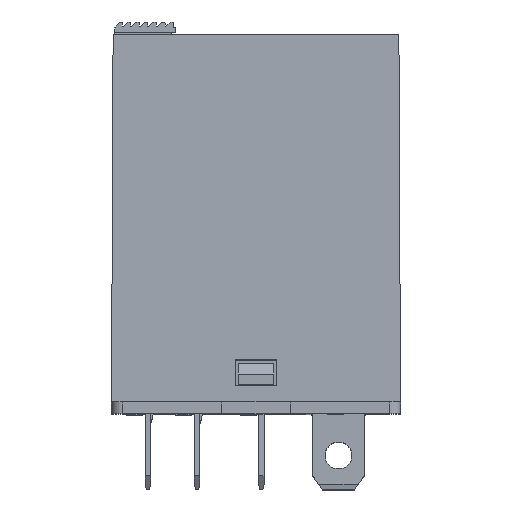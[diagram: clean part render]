
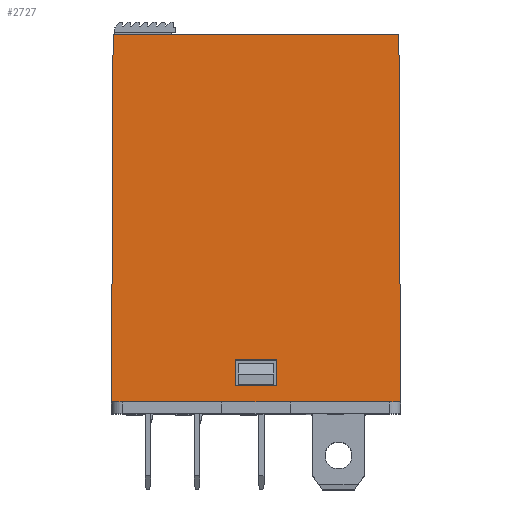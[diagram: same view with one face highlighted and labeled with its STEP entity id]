
A CAD part, top view. The second image highlights one B-rep face of the part: STEP entity #2727.
In plain terms, the highlighted planar face has unit normal (0, 0.004, 1).
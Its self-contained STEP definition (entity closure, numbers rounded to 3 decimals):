
#365 = VECTOR ( 'NONE', #7423, 1000. ) ;
#377 = DIRECTION ( 'NONE',  ( 0., 0.004, 1. ) ) ;
#468 = LINE ( 'NONE', #15472, #10069 ) ;
#699 = LINE ( 'NONE', #3181, #5204 ) ;
#828 = CARTESIAN_POINT ( 'NONE',  ( -3.147, -0.649, 37.5 ) ) ;
#838 = VERTEX_POINT ( 'NONE', #11378 ) ;
#967 = ORIENTED_EDGE ( 'NONE', *, *, #13695, .T. ) ;
#1011 = LINE ( 'NONE', #828, #20794 ) ;
#1346 = CARTESIAN_POINT ( 'NONE',  ( 0.753, -0.649, 37.5 ) ) ;
#1524 = LINE ( 'NONE', #15057, #11122 ) ;
#1651 = CARTESIAN_POINT ( 'NONE',  ( 12.303, -0.649, 37.5 ) ) ;
#1772 = CARTESIAN_POINT ( 'NONE',  ( -14.697, -0.649, 37.5 ) ) ;
#1900 = CARTESIAN_POINT ( 'NONE',  ( -14.697, -0.649, 37.5 ) ) ;
#2288 = VECTOR ( 'NONE', #3716, 1000. ) ;
#2727 = ADVANCED_FACE ( 'NONE', ( #12756, #3748 ), #21407, .T. ) ;
#3181 = CARTESIAN_POINT ( 'NONE',  ( -14.697, -0.649, 37.5 ) ) ;
#3287 = DIRECTION ( 'NONE',  ( 0., -1., 0.004 ) ) ;
#3618 = EDGE_CURVE ( 'NONE', #7688, #838, #1011, .T. ) ;
#3716 = DIRECTION ( 'NONE',  ( -0.004, -1., 0.004 ) ) ;
#3748 = FACE_BOUND ( 'NONE', #22409, .T. ) ;
#3931 = EDGE_CURVE ( 'NONE', #24149, #7415, #699, .T. ) ;
#4204 = ORIENTED_EDGE ( 'NONE', *, *, #19729, .T. ) ;
#4532 = VECTOR ( 'NONE', #3287, 1000. ) ;
#4641 = VERTEX_POINT ( 'NONE', #14469 ) ;
#4938 = ORIENTED_EDGE ( 'NONE', *, *, #19957, .F. ) ;
#5130 = EDGE_CURVE ( 'NONE', #13188, #5951, #11737, .T. ) ;
#5204 = VECTOR ( 'NONE', #7049, 1000. ) ;
#5951 = VERTEX_POINT ( 'NONE', #1651 ) ;
#5979 = LINE ( 'NONE', #18004, #11068 ) ;
#6154 = CARTESIAN_POINT ( 'NONE',  ( 11.303, -0.649, 37.5 ) ) ;
#6619 = ORIENTED_EDGE ( 'NONE', *, *, #19348, .T. ) ;
#6658 = VECTOR ( 'NONE', #7826, 1000. ) ;
#7049 = DIRECTION ( 'NONE',  ( 1., 0., 0. ) ) ;
#7059 = ORIENTED_EDGE ( 'NONE', *, *, #3931, .T. ) ;
#7074 = ORIENTED_EDGE ( 'NONE', *, *, #14052, .T. ) ;
#7415 = VERTEX_POINT ( 'NONE', #6154 ) ;
#7423 = DIRECTION ( 'NONE',  ( 1., 0., 0. ) ) ;
#7679 = VECTOR ( 'NONE', #19834, 1000. ) ;
#7688 = VERTEX_POINT ( 'NONE', #21785 ) ;
#7826 = DIRECTION ( 'NONE',  ( 0.004, -1., 0.004 ) ) ;
#8347 = ORIENTED_EDGE ( 'NONE', *, *, #22658, .T. ) ;
#8639 = EDGE_CURVE ( 'NONE', #17096, #14865, #17585, .T. ) ;
#9766 = CARTESIAN_POINT ( 'NONE',  ( 12.302, -0.557, 37.5 ) ) ;
#9776 = ORIENTED_EDGE ( 'NONE', *, *, #3618, .T. ) ;
#9799 = AXIS2_PLACEMENT_3D ( 'NONE', #15641, #377, #13805 ) ;
#10069 = VECTOR ( 'NONE', #19299, 1000. ) ;
#10130 = EDGE_LOOP ( 'NONE', ( #17769, #4938, #15943, #8347, #13678, #7074, #7059, #6619 ) ) ;
#10500 = VECTOR ( 'NONE', #13681, 1000. ) ;
#11068 = VECTOR ( 'NONE', #20014, 1000. ) ;
#11107 = CARTESIAN_POINT ( 'NONE',  ( -13.697, -0.649, 37.5 ) ) ;
#11122 = VECTOR ( 'NONE', #16980, 1000. ) ;
#11358 = VECTOR ( 'NONE', #13399, 1000. ) ;
#11378 = CARTESIAN_POINT ( 'NONE',  ( -3.147, 3.351, 37.483 ) ) ;
#11652 = CARTESIAN_POINT ( 'NONE',  ( -14.548, 33.651, 37.35 ) ) ;
#11737 = LINE ( 'NONE', #9766, #6658 ) ;
#12190 = VERTEX_POINT ( 'NONE', #22037 ) ;
#12200 = LINE ( 'NONE', #14166, #7679 ) ;
#12756 = FACE_OUTER_BOUND ( 'NONE', #10130, .T. ) ;
#12874 = CARTESIAN_POINT ( 'NONE',  ( -14.697, -0.649, 37.5 ) ) ;
#13188 = VERTEX_POINT ( 'NONE', #23936 ) ;
#13399 = DIRECTION ( 'NONE',  ( 1., 0., 0. ) ) ;
#13678 = ORIENTED_EDGE ( 'NONE', *, *, #22844, .T. ) ;
#13681 = DIRECTION ( 'NONE',  ( 1., 0., 0. ) ) ;
#13695 = EDGE_CURVE ( 'NONE', #12190, #7688, #12200, .T. ) ;
#13805 = DIRECTION ( 'NONE',  ( 1., 0., 0. ) ) ;
#14052 = EDGE_CURVE ( 'NONE', #4641, #24149, #468, .T. ) ;
#14166 = CARTESIAN_POINT ( 'NONE',  ( -14.697, 0.851, 37.493 ) ) ;
#14469 = CARTESIAN_POINT ( 'NONE',  ( -4.397, -0.649, 37.5 ) ) ;
#14865 = VERTEX_POINT ( 'NONE', #12874 ) ;
#15057 = CARTESIAN_POINT ( 'NONE',  ( -14.697, -0.649, 37.5 ) ) ;
#15322 = LINE ( 'NONE', #1346, #4532 ) ;
#15472 = CARTESIAN_POINT ( 'NONE',  ( -14.697, -0.649, 37.5 ) ) ;
#15641 = CARTESIAN_POINT ( 'NONE',  ( -14.697, -0.649, 37.5 ) ) ;
#15943 = ORIENTED_EDGE ( 'NONE', *, *, #8639, .T. ) ;
#16066 = CARTESIAN_POINT ( 'NONE',  ( 0.753, 3.351, 37.483 ) ) ;
#16113 = EDGE_CURVE ( 'NONE', #838, #23102, #16278, .T. ) ;
#16278 = LINE ( 'NONE', #22586, #365 ) ;
#16470 = LINE ( 'NONE', #1900, #11358 ) ;
#16980 = DIRECTION ( 'NONE',  ( 1., 0., 0. ) ) ;
#17003 = CARTESIAN_POINT ( 'NONE',  ( 2.003, -0.649, 37.5 ) ) ;
#17096 = VERTEX_POINT ( 'NONE', #18683 ) ;
#17585 = LINE ( 'NONE', #1772, #2288 ) ;
#17769 = ORIENTED_EDGE ( 'NONE', *, *, #5130, .F. ) ;
#18004 = CARTESIAN_POINT ( 'NONE',  ( -14.697, -0.649, 37.5 ) ) ;
#18094 = DIRECTION ( 'NONE',  ( 0., 1., -0.004 ) ) ;
#18683 = CARTESIAN_POINT ( 'NONE',  ( -14.548, 33.651, 37.35 ) ) ;
#19299 = DIRECTION ( 'NONE',  ( 1., 0., 0. ) ) ;
#19317 = VERTEX_POINT ( 'NONE', #11107 ) ;
#19348 = EDGE_CURVE ( 'NONE', #7415, #5951, #1524, .T. ) ;
#19729 = EDGE_CURVE ( 'NONE', #23102, #12190, #15322, .T. ) ;
#19834 = DIRECTION ( 'NONE',  ( -1., 0., 0. ) ) ;
#19957 = EDGE_CURVE ( 'NONE', #17096, #13188, #20689, .T. ) ;
#20014 = DIRECTION ( 'NONE',  ( 1., 0., 0. ) ) ;
#20689 = LINE ( 'NONE', #11652, #10500 ) ;
#20794 = VECTOR ( 'NONE', #18094, 1000. ) ;
#21407 = PLANE ( 'NONE',  #9799 ) ;
#21785 = CARTESIAN_POINT ( 'NONE',  ( -3.147, 0.851, 37.493 ) ) ;
#22037 = CARTESIAN_POINT ( 'NONE',  ( 0.753, 0.851, 37.493 ) ) ;
#22409 = EDGE_LOOP ( 'NONE', ( #9776, #23700, #4204, #967 ) ) ;
#22586 = CARTESIAN_POINT ( 'NONE',  ( -3.147, 3.351, 37.483 ) ) ;
#22658 = EDGE_CURVE ( 'NONE', #14865, #19317, #5979, .T. ) ;
#22844 = EDGE_CURVE ( 'NONE', #19317, #4641, #16470, .T. ) ;
#23102 = VERTEX_POINT ( 'NONE', #16066 ) ;
#23700 = ORIENTED_EDGE ( 'NONE', *, *, #16113, .T. ) ;
#23936 = CARTESIAN_POINT ( 'NONE',  ( 12.153, 33.651, 37.35 ) ) ;
#24149 = VERTEX_POINT ( 'NONE', #17003 ) ;
